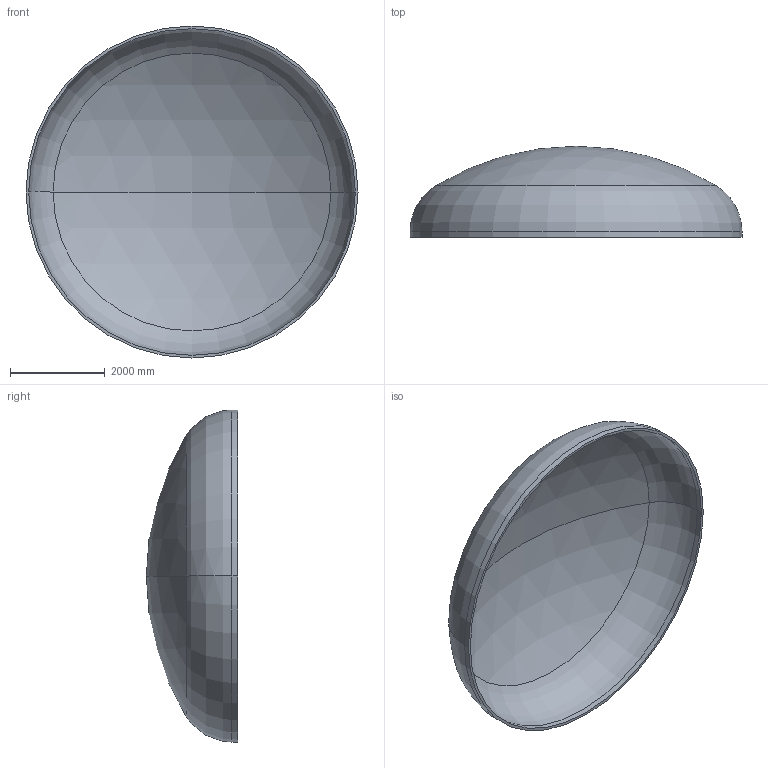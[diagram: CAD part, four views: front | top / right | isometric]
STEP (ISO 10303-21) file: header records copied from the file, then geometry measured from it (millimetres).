
FILE_DESCRIPTION (( 'STEP AP203' ), '1' );
FILE_NAME ('DIN 28013 Korbbogenform_-_Boden DIN 28013 - 7000 x 120 - I - s=56.step', '2016-07-04T10:48:16', ( '' ), ( '' ), 'SwSTEP 2.0', 'SolidWorks 2013', '' );
FILE_SCHEMA (( 'CONFIG_CONTROL_DESIGN' ));
Length unit declared in the file: millimetre
Products named in the file (1): DIN 28013 Korbbogenform_-_Boden DIN 28013 - 7000 x 120 - I - s=56
Bounding box: 7000 x 1923.48 x 7000 mm (x, y, z)
Volume: 3101106450 mm3; surface area: 111981979.2 mm2
Topology: 1 solids, 1 shells, 13 faces, 24 edges, 14 vertices
Faces by surface type: torus 4, cylinder 4, sphere 4, plane 1
Entity records: 407 total; most frequent: DIRECTION 72, CARTESIAN_POINT 52, ORIENTED_EDGE 48, AXIS2_PLACEMENT_3D 34, EDGE_CURVE 24, CIRCLE 20, VERTEX_POINT 14, EDGE_LOOP 14
